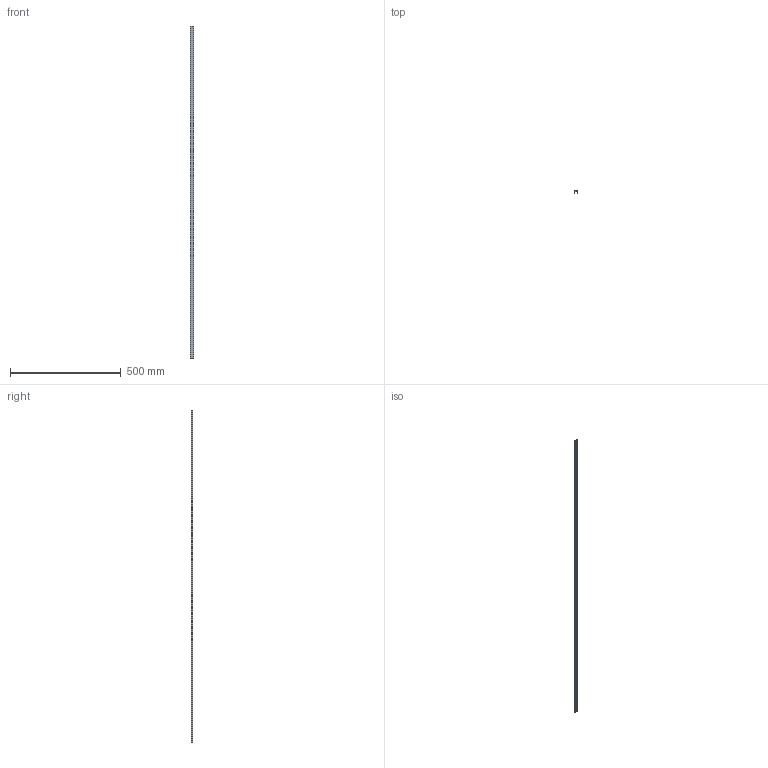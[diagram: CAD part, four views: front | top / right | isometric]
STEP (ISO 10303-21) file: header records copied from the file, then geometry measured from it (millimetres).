
FILE_DESCRIPTION(('STEP AP214'),'1');
FILE_NAME('ILK-FLEXEXT-1500-001_extrusion_Step.stp','2016-10-21T14:44:38',(' '),(' '),'Spatial InterOp 3D',' ',' ');
FILE_SCHEMA(('automotive_design'));
Length unit declared in the file: metre
Products named in the file (2): Solid; 1
Bounding box: 16.66 x 8.9 x 1500 mm (x, y, z)
Volume: 68666.1 mm3; surface area: 122754.8 mm2
Topology: 1 solids, 1 shells, 73 faces, 282 edges, 280 vertices
Faces by surface type: plane 46, cylinder 27
Entity records: 4246 total; most frequent: DIRECTION 511, CARTESIAN_POINT 499, ORIENTED_EDGE 426, EDGE_CURVE 213, STYLED_ITEM 212, PRESENTATION_STYLE_ASSIGNMENT 212, COLOUR_RGB 212, LINE 203
